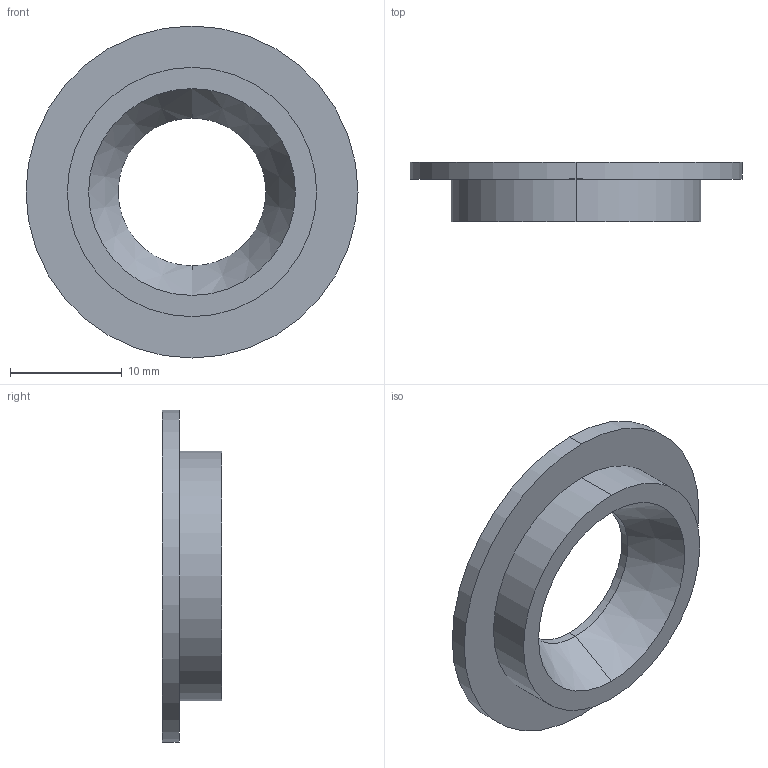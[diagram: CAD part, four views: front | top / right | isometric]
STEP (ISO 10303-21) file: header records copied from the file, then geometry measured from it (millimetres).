
FILE_DESCRIPTION (( 'STEP AP203' ), '1' );
FILE_NAME ('11-13 Washer.STEP', '2019-04-01T22:41:24', ( '' ), ( '' ), 'SwSTEP 2.0', 'SolidWorks 2017', '' );
FILE_SCHEMA (( 'CONFIG_CONTROL_DESIGN' ));
Length unit declared in the file: inch
Products named in the file (1): 11-13 Washer
Bounding box: 29.77 x 5.33 x 29.77 mm (x, y, z)
Volume: 1534.3 mm3; surface area: 1689.5 mm2
Topology: 1 solids, 1 shells, 11 faces, 22 edges, 14 vertices
Faces by surface type: cylinder 6, plane 3, cone 2
Entity records: 377 total; most frequent: DIRECTION 60, CARTESIAN_POINT 48, ORIENTED_EDGE 44, AXIS2_PLACEMENT_3D 26, EDGE_CURVE 22, VERTEX_POINT 14, CIRCLE 14, EDGE_LOOP 14
